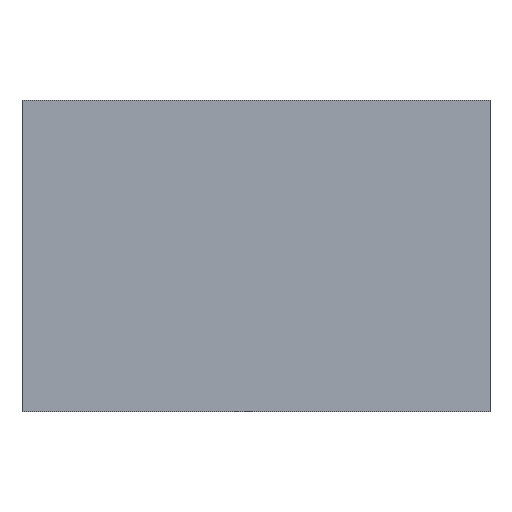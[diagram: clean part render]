
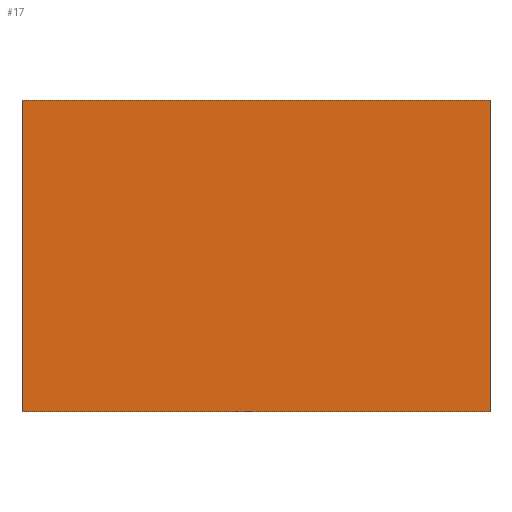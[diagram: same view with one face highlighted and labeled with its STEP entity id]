
A CAD part, left-side view. The second image highlights one B-rep face of the part: STEP entity #17.
In plain terms, the highlighted planar face has unit normal (-1, 0, 0).
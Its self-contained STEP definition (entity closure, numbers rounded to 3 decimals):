
#17 = ADVANCED_FACE('f000',(#18),#32,.F.);
#18 = FACE_BOUND('',#19,.F.);
#19 = EDGE_LOOP('',(#20,#55,#83,#111));
#20 = ORIENTED_EDGE('',*,*,#21,.F.);
#21 = EDGE_CURVE('',#22,#24,#26,.T.);
#22 = VERTEX_POINT('',#23);
#23 = CARTESIAN_POINT('',(0.,0.,0.));
#24 = VERTEX_POINT('',#25);
#25 = CARTESIAN_POINT('',(0.,0.,32.671));
#26 = SURFACE_CURVE('',#27,(#31,#43),.PCURVE_S1.);
#27 = LINE('',#28,#29);
#28 = CARTESIAN_POINT('',(0.,0.,0.));
#29 = VECTOR('',#30,1.);
#30 = DIRECTION('',(0.,0.,1.));
#31 = PCURVE('',#32,#37);
#32 = PLANE('',#33);
#33 = AXIS2_PLACEMENT_3D('',#34,#35,#36);
#34 = CARTESIAN_POINT('',(0.,0.,0.));
#35 = DIRECTION('',(1.,0.,-0.));
#36 = DIRECTION('',(0.,0.,1.));
#37 = DEFINITIONAL_REPRESENTATION('',(#38),#42);
#38 = LINE('',#39,#40);
#39 = CARTESIAN_POINT('',(0.,0.));
#40 = VECTOR('',#41,1.);
#41 = DIRECTION('',(1.,0.));
#42 = ( GEOMETRIC_REPRESENTATION_CONTEXT(2) 
PARAMETRIC_REPRESENTATION_CONTEXT() REPRESENTATION_CONTEXT('2D SPACE',''
  ) );
#43 = PCURVE('',#44,#49);
#44 = PLANE('',#45);
#45 = AXIS2_PLACEMENT_3D('',#46,#47,#48);
#46 = CARTESIAN_POINT('',(0.,0.,0.));
#47 = DIRECTION('',(-0.,1.,0.));
#48 = DIRECTION('',(0.,0.,1.));
#49 = DEFINITIONAL_REPRESENTATION('',(#50),#54);
#50 = LINE('',#51,#52);
#51 = CARTESIAN_POINT('',(0.,0.));
#52 = VECTOR('',#53,1.);
#53 = DIRECTION('',(1.,0.));
#54 = ( GEOMETRIC_REPRESENTATION_CONTEXT(2) 
PARAMETRIC_REPRESENTATION_CONTEXT() REPRESENTATION_CONTEXT('2D SPACE',''
  ) );
#55 = ORIENTED_EDGE('',*,*,#56,.T.);
#56 = EDGE_CURVE('',#22,#57,#59,.T.);
#57 = VERTEX_POINT('',#58);
#58 = CARTESIAN_POINT('',(0.,49.103,0.));
#59 = SURFACE_CURVE('',#60,(#64,#71),.PCURVE_S1.);
#60 = LINE('',#61,#62);
#61 = CARTESIAN_POINT('',(0.,0.,0.));
#62 = VECTOR('',#63,1.);
#63 = DIRECTION('',(-0.,1.,0.));
#64 = PCURVE('',#32,#65);
#65 = DEFINITIONAL_REPRESENTATION('',(#66),#70);
#66 = LINE('',#67,#68);
#67 = CARTESIAN_POINT('',(0.,0.));
#68 = VECTOR('',#69,1.);
#69 = DIRECTION('',(0.,-1.));
#70 = ( GEOMETRIC_REPRESENTATION_CONTEXT(2) 
PARAMETRIC_REPRESENTATION_CONTEXT() REPRESENTATION_CONTEXT('2D SPACE',''
  ) );
#71 = PCURVE('',#72,#77);
#72 = PLANE('',#73);
#73 = AXIS2_PLACEMENT_3D('',#74,#75,#76);
#74 = CARTESIAN_POINT('',(0.,0.,0.));
#75 = DIRECTION('',(0.,0.,1.));
#76 = DIRECTION('',(1.,0.,-0.));
#77 = DEFINITIONAL_REPRESENTATION('',(#78),#82);
#78 = LINE('',#79,#80);
#79 = CARTESIAN_POINT('',(0.,0.));
#80 = VECTOR('',#81,1.);
#81 = DIRECTION('',(0.,1.));
#82 = ( GEOMETRIC_REPRESENTATION_CONTEXT(2) 
PARAMETRIC_REPRESENTATION_CONTEXT() REPRESENTATION_CONTEXT('2D SPACE',''
  ) );
#83 = ORIENTED_EDGE('',*,*,#84,.T.);
#84 = EDGE_CURVE('',#57,#85,#87,.T.);
#85 = VERTEX_POINT('',#86);
#86 = CARTESIAN_POINT('',(0.,49.103,32.671));
#87 = SURFACE_CURVE('',#88,(#92,#99),.PCURVE_S1.);
#88 = LINE('',#89,#90);
#89 = CARTESIAN_POINT('',(0.,49.103,0.));
#90 = VECTOR('',#91,1.);
#91 = DIRECTION('',(0.,0.,1.));
#92 = PCURVE('',#32,#93);
#93 = DEFINITIONAL_REPRESENTATION('',(#94),#98);
#94 = LINE('',#95,#96);
#95 = CARTESIAN_POINT('',(0.,-49.103));
#96 = VECTOR('',#97,1.);
#97 = DIRECTION('',(1.,0.));
#98 = ( GEOMETRIC_REPRESENTATION_CONTEXT(2) 
PARAMETRIC_REPRESENTATION_CONTEXT() REPRESENTATION_CONTEXT('2D SPACE',''
  ) );
#99 = PCURVE('',#100,#105);
#100 = PLANE('',#101);
#101 = AXIS2_PLACEMENT_3D('',#102,#103,#104);
#102 = CARTESIAN_POINT('',(0.,49.103,0.));
#103 = DIRECTION('',(-0.,1.,0.));
#104 = DIRECTION('',(0.,0.,1.));
#105 = DEFINITIONAL_REPRESENTATION('',(#106),#110);
#106 = LINE('',#107,#108);
#107 = CARTESIAN_POINT('',(0.,0.));
#108 = VECTOR('',#109,1.);
#109 = DIRECTION('',(1.,0.));
#110 = ( GEOMETRIC_REPRESENTATION_CONTEXT(2) 
PARAMETRIC_REPRESENTATION_CONTEXT() REPRESENTATION_CONTEXT('2D SPACE',''
  ) );
#111 = ORIENTED_EDGE('',*,*,#112,.F.);
#112 = EDGE_CURVE('',#24,#85,#113,.T.);
#113 = SURFACE_CURVE('',#114,(#118,#125),.PCURVE_S1.);
#114 = LINE('',#115,#116);
#115 = CARTESIAN_POINT('',(0.,0.,32.671));
#116 = VECTOR('',#117,1.);
#117 = DIRECTION('',(-0.,1.,0.));
#118 = PCURVE('',#32,#119);
#119 = DEFINITIONAL_REPRESENTATION('',(#120),#124);
#120 = LINE('',#121,#122);
#121 = CARTESIAN_POINT('',(32.671,0.));
#122 = VECTOR('',#123,1.);
#123 = DIRECTION('',(0.,-1.));
#124 = ( GEOMETRIC_REPRESENTATION_CONTEXT(2) 
PARAMETRIC_REPRESENTATION_CONTEXT() REPRESENTATION_CONTEXT('2D SPACE',''
  ) );
#125 = PCURVE('',#126,#131);
#126 = PLANE('',#127);
#127 = AXIS2_PLACEMENT_3D('',#128,#129,#130);
#128 = CARTESIAN_POINT('',(0.,0.,32.671));
#129 = DIRECTION('',(0.,0.,1.));
#130 = DIRECTION('',(1.,0.,-0.));
#131 = DEFINITIONAL_REPRESENTATION('',(#132),#136);
#132 = LINE('',#133,#134);
#133 = CARTESIAN_POINT('',(0.,0.));
#134 = VECTOR('',#135,1.);
#135 = DIRECTION('',(0.,1.));
#136 = ( GEOMETRIC_REPRESENTATION_CONTEXT(2) 
PARAMETRIC_REPRESENTATION_CONTEXT() REPRESENTATION_CONTEXT('2D SPACE',''
  ) );
